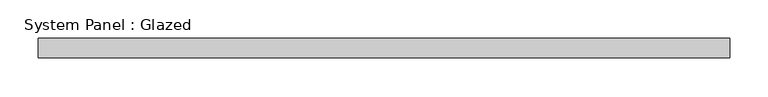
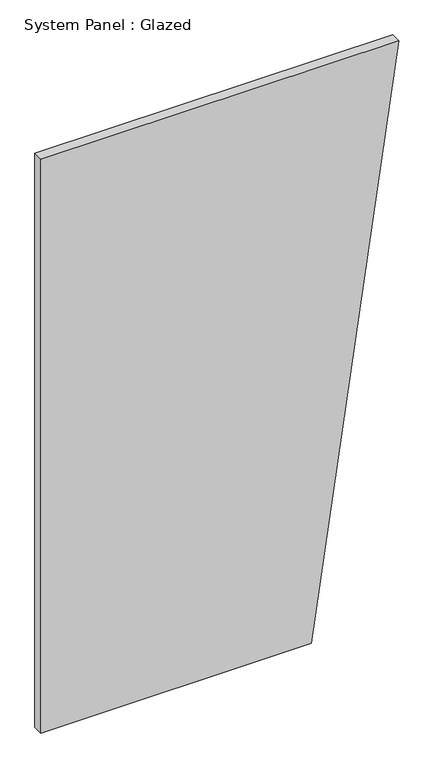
"""IFC4 building model written with IfcOpenShell, lengths in millimetres: plate geometry, System Panel : Glazed."""

from ifc_helpers import new_model, si_unit, frame, origin, place, context, project, spatial, polyline, outline, extrude, source, transform, mapped, element, save


def system_panel_glazed_0eafb632(model_context):
    return source(origin(), model_context, "Body", "SweptSolid", [
        extrude(outline(polyline([(0.0, -449.5251797), (0.0, 230.2446042), (1524.0, 449.5251797), (1524.0, -449.5251797), (0.0, -449.5251797)])), frame((0.0, 19.05, 0.0), z_axis=(0.0, 1.0, 0.0), x_axis=(0.0, 0.0, 1.0)), (0.0, 0.0, 1.0), 25.4),
    ])


if __name__ == "__main__":
    model = new_model("IFC4")
    model_context = context("Model", 3, world=origin())
    ifc_project = project(units=[si_unit("LENGTHUNIT", "METRE", prefix="MILLI")], contexts=[model_context])
    site = spatial("IfcSite", under=ifc_project)
    building = spatial("IfcBuilding", under=site)
    placement = place(None, origin())
    system_panel_glazed_shape = system_panel_glazed_0eafb632(model_context)
    element("IfcPlate", 1, ObjectType="System Panel : Glazed", at=placement, inside=building, context=model_context, shape_type="MappedRepresentation", body=[
        mapped(system_panel_glazed_shape, transform((0.0, 0.0, 0.0), x_axis=(1.0, 0.0, 0.0), y_axis=(0.0, 1.0, 0.0), z_axis=(0.0, 0.0, 1.0))),
    ])
    save(model, "model.ifc")
